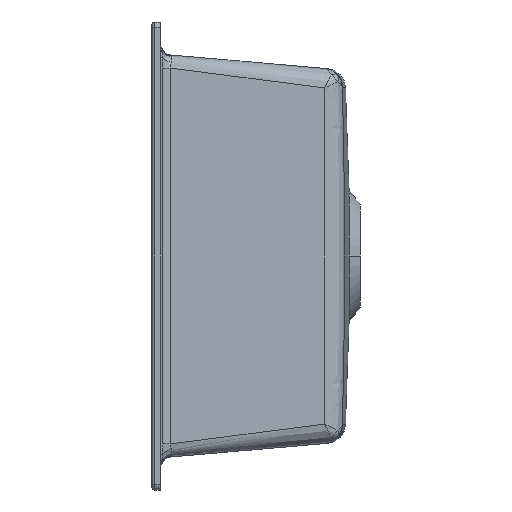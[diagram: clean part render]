
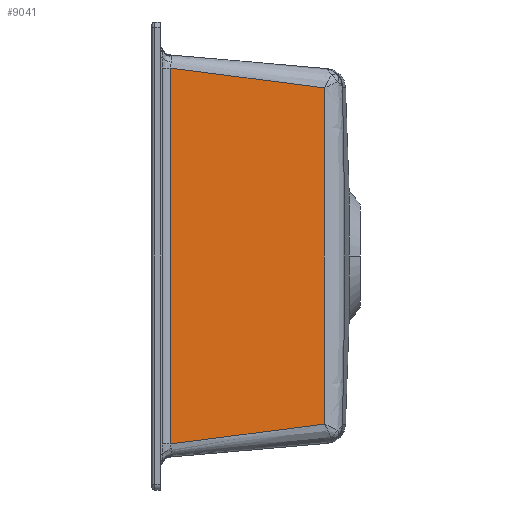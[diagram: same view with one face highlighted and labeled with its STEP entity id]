
A CAD part, left-side view. The second image highlights one B-rep face of the part: STEP entity #9041.
In plain terms, the highlighted planar face has unit normal (-0.996, -0.087, 0).
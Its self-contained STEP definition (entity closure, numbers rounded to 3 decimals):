
#121 = CARTESIAN_POINT ( 'NONE',  ( -340.413, -184.417, -179.569 ) ) ;
#1032 = ORIENTED_EDGE ( 'NONE', *, *, #14601, .F. ) ;
#1091 = CARTESIAN_POINT ( 'NONE',  ( -340.413, -184.417, 179.569 ) ) ;
#1340 = CARTESIAN_POINT ( 'NONE',  ( -340.213, -186.712, 29.906 ) ) ;
#1581 = CARTESIAN_POINT ( 'NONE',  ( -349.996, -74.89, -195.115 ) ) ;
#1609 = ORIENTED_EDGE ( 'NONE', *, *, #6955, .F. ) ;
#1794 = CARTESIAN_POINT ( 'NONE',  ( -354.803, -19.941, 200.748 ) ) ;
#1987 = EDGE_CURVE ( 'NONE', #8005, #10168, #12978, .T. ) ;
#2067 = CARTESIAN_POINT ( 'NONE',  ( -340.302, -185.696, -119.74 ) ) ;
#2716 = LINE ( 'NONE', #14327, #7206 ) ;
#3225 = VERTEX_POINT ( 'NONE', #14000 ) ;
#3348 = CARTESIAN_POINT ( 'NONE',  ( -340.302, -185.697, 119.71 ) ) ;
#3755 = CARTESIAN_POINT ( 'NONE',  ( -340.353, -185.104, -149.656 ) ) ;
#3856 = DIRECTION ( 'NONE',  ( -0.087, 0.996, 0. ) ) ;
#4974 = PLANE ( 'NONE',  #5806 ) ;
#5044 = CARTESIAN_POINT ( 'NONE',  ( -340.208, -186.769, -14.999 ) ) ;
#5141 = FACE_OUTER_BOUND ( 'NONE', #13803, .T. ) ;
#5758 = CARTESIAN_POINT ( 'NONE',  ( -354.803, -19.941, -200.748 ) ) ;
#5806 = AXIS2_PLACEMENT_3D ( 'NONE', #12719, #8838, #3856 ) ;
#6254 = CARTESIAN_POINT ( 'NONE',  ( -349.996, -74.89, 195.115 ) ) ;
#6339 = CARTESIAN_POINT ( 'NONE',  ( -340.232, -186.488, -59.894 ) ) ;
#6422 = CARTESIAN_POINT ( 'NONE',  ( -340.213, -186.712, -29.965 ) ) ;
#6572 = B_SPLINE_CURVE_WITH_KNOTS ( 'NONE', 3,
 ( #12783, #6254, #11491, #16890 ),
 .UNSPECIFIED., .F., .F.,
 ( 4, 4 ),
 ( 0.014, 0.181 ),
 .UNSPECIFIED. ) ;
#6955 = EDGE_CURVE ( 'NONE', #16438, #3225, #6572, .T. ) ;
#7206 = VECTOR ( 'NONE', #15695, 1000. ) ;
#8005 = VERTEX_POINT ( 'NONE', #11122 ) ;
#8591 = CARTESIAN_POINT ( 'NONE',  ( -340.247, -186.324, 74.809 ) ) ;
#8838 = DIRECTION ( 'NONE',  ( 0.996, 0.087, 0. ) ) ;
#8997 = CARTESIAN_POINT ( 'NONE',  ( -340.413, -184.417, -179.569 ) ) ;
#9041 = ADVANCED_FACE ( 'NONE', ( #5141 ), #4974, .F. ) ;
#9155 = CARTESIAN_POINT ( 'NONE',  ( -354.803, -19.941, -200.748 ) ) ;
#9169 = CARTESIAN_POINT ( 'NONE',  ( -340.353, -185.104, 149.64 ) ) ;
#10168 = VERTEX_POINT ( 'NONE', #5758 ) ;
#10215 = ORIENTED_EDGE ( 'NONE', *, *, #1987, .F. ) ;
#11122 = CARTESIAN_POINT ( 'NONE',  ( -340.413, -184.417, -179.569 ) ) ;
#11175 = CARTESIAN_POINT ( 'NONE',  ( -340.208, -186.77, 14.938 ) ) ;
#11491 = CARTESIAN_POINT ( 'NONE',  ( -345.222, -129.456, 185.074 ) ) ;
#12038 = B_SPLINE_CURVE_WITH_KNOTS ( 'NONE', 3,
 ( #1091, #9169, #3348, #8591, #16808, #1340, #11175, #5044, #6422, #6339, #16891, #2067, #3755, #8997 ),
 .UNSPECIFIED., .F., .F.,
 ( 4, 2, 2, 2, 2, 2, 4 ),
 ( 917.49, 917.58, 917.625, 917.67, 917.715, 917.759, 917.849 ),
 .UNSPECIFIED. ) ;
#12154 = CARTESIAN_POINT ( 'NONE',  ( -345.222, -129.456, -185.074 ) ) ;
#12719 = CARTESIAN_POINT ( 'NONE',  ( -355.977, -6.523, -210. ) ) ;
#12783 = CARTESIAN_POINT ( 'NONE',  ( -354.803, -19.941, 200.748 ) ) ;
#12978 = B_SPLINE_CURVE_WITH_KNOTS ( 'NONE', 3,
 ( #121, #12154, #1581, #9155 ),
 .UNSPECIFIED., .F., .F.,
 ( 4, 4 ),
 ( 0.014, 0.18 ),
 .UNSPECIFIED. ) ;
#13014 = EDGE_CURVE ( 'NONE', #16438, #10168, #2716, .T. ) ;
#13803 = EDGE_LOOP ( 'NONE', ( #1609, #14791, #10215, #1032 ) ) ;
#14000 = CARTESIAN_POINT ( 'NONE',  ( -340.413, -184.417, 179.569 ) ) ;
#14327 = CARTESIAN_POINT ( 'NONE',  ( -354.803, -19.941, -210. ) ) ;
#14601 = EDGE_CURVE ( 'NONE', #3225, #8005, #12038, .T. ) ;
#14791 = ORIENTED_EDGE ( 'NONE', *, *, #13014, .T. ) ;
#15695 = DIRECTION ( 'NONE',  ( 0., 0., -1. ) ) ;
#16438 = VERTEX_POINT ( 'NONE', #1794 ) ;
#16808 = CARTESIAN_POINT ( 'NONE',  ( -340.232, -186.489, 59.842 ) ) ;
#16890 = CARTESIAN_POINT ( 'NONE',  ( -340.413, -184.417, 179.569 ) ) ;
#16891 = CARTESIAN_POINT ( 'NONE',  ( -340.247, -186.323, -74.857 ) ) ;
